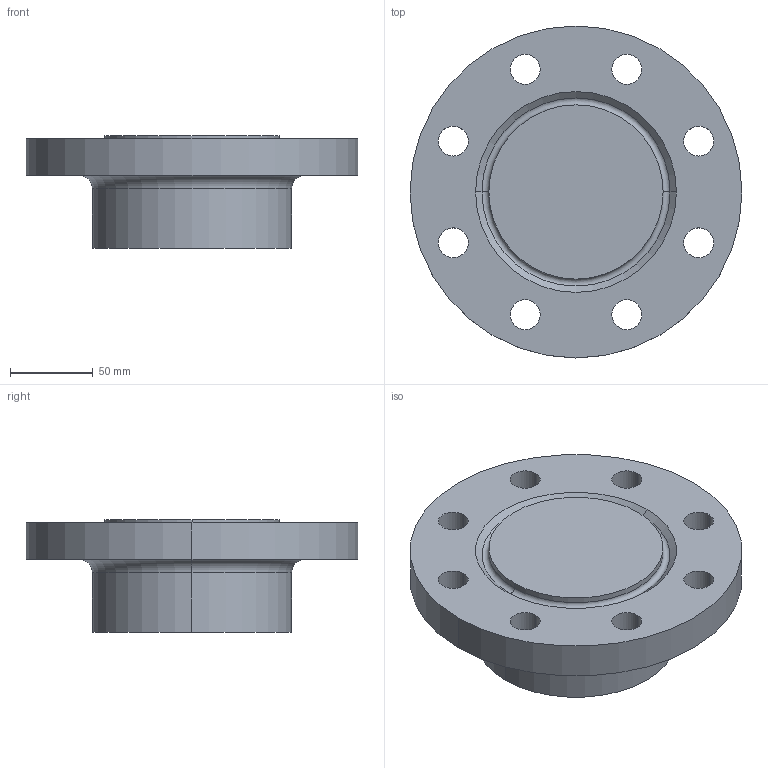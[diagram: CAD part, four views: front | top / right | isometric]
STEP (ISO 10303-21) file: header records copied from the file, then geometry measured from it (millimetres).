
FILE_DESCRIPTION (( 'STEP AP214' ), '1' );
FILE_NAME ('PN40 DN80 Type 21(i) - Type H Face.STEP', '2019-01-01T19:32:50', ( '' ), ( '' ), 'SwSTEP 2.0', 'SolidWorks 2019', '' );
FILE_SCHEMA (( 'AUTOMOTIVE_DESIGN' ));
Length unit declared in the file: millimetre
Products named in the file (1): PN40 DN80 Type 21(i) - Type H Face
Bounding box: 200 x 200 x 68 mm (x, y, z)
Volume: 1159144.1 mm3; surface area: 100007.5 mm2
Topology: 1 solids, 1 shells, 32 faces, 78 edges, 50 vertices
Faces by surface type: cylinder 22, torus 4, plane 4, cone 2
Entity records: 1034 total; most frequent: DIRECTION 198, CARTESIAN_POINT 161, ORIENTED_EDGE 156, AXIS2_PLACEMENT_3D 87, EDGE_CURVE 78, CIRCLE 54, VERTEX_POINT 50, EDGE_LOOP 50
